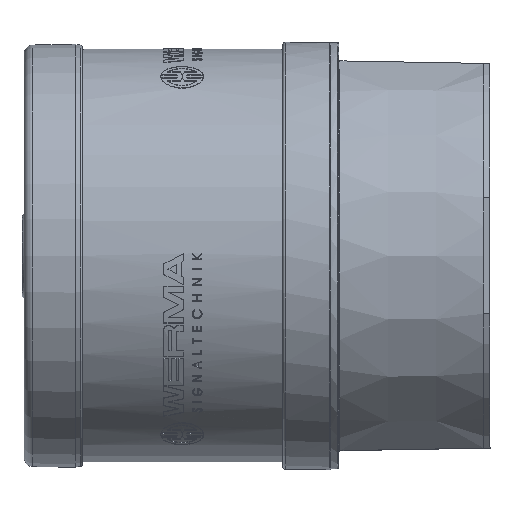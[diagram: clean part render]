
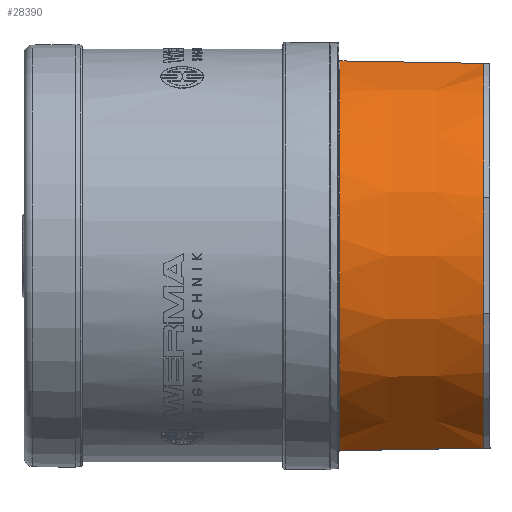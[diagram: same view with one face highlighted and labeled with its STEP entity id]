
A CAD part, left-side view. The second image highlights one B-rep face of the part: STEP entity #28390.
In plain terms, the highlighted conical face has half-angle 1 degrees and reference radius 47.295 mm.
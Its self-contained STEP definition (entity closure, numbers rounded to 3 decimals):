
#33=(
BOUNDED_CURVE()
B_SPLINE_CURVE(2,(#94732,#94733,#94734),.UNSPECIFIED.,.F.,.F.)
B_SPLINE_CURVE_WITH_KNOTS((3,3),(0.029,0.029),
 .UNSPECIFIED.)
CURVE()
GEOMETRIC_REPRESENTATION_ITEM()
RATIONAL_B_SPLINE_CURVE((1.,1.,1.))
REPRESENTATION_ITEM('')
);
#34=(
BOUNDED_CURVE()
B_SPLINE_CURVE(2,(#94735,#94736,#94737),.UNSPECIFIED.,.F.,.F.)
B_SPLINE_CURVE_WITH_KNOTS((3,3),(0.029,3.387),
 .UNSPECIFIED.)
CURVE()
GEOMETRIC_REPRESENTATION_ITEM()
RATIONAL_B_SPLINE_CURVE((1.,1.,1.))
REPRESENTATION_ITEM('')
);
#35=(
BOUNDED_CURVE()
B_SPLINE_CURVE(2,(#94739,#94740,#94741),.UNSPECIFIED.,.F.,.F.)
B_SPLINE_CURVE_WITH_KNOTS((3,3),(0.,3.358),.UNSPECIFIED.)
CURVE()
GEOMETRIC_REPRESENTATION_ITEM()
RATIONAL_B_SPLINE_CURVE((1.,1.,1.))
REPRESENTATION_ITEM('')
);
#36=(
BOUNDED_CURVE()
B_SPLINE_CURVE(2,(#94742,#94743,#94744),.UNSPECIFIED.,.F.,.F.)
B_SPLINE_CURVE_WITH_KNOTS((3,3),(3.358,3.358),
 .UNSPECIFIED.)
CURVE()
GEOMETRIC_REPRESENTATION_ITEM()
RATIONAL_B_SPLINE_CURVE((1.,1.,1.))
REPRESENTATION_ITEM('')
);
#168=CONICAL_SURFACE('',#30166,47.296,0.017);
#5845=CIRCLE('',#29981,47.);
#5848=CIRCLE('',#29985,47.);
#5867=CIRCLE('',#30039,47.);
#5935=CIRCLE('',#30167,47.586);
#8054=FACE_OUTER_BOUND('',#9766,.T.);
#9766=EDGE_LOOP('',(#23495,#23496,#23497,#23498,#23499,#23500,#23501,#23502));
#13373=VERTEX_POINT('',#93932);
#13378=VERTEX_POINT('',#93942);
#13391=VERTEX_POINT('',#93976);
#13393=VERTEX_POINT('',#93980);
#13551=VERTEX_POINT('',#94728);
#13552=VERTEX_POINT('',#94729);
#13553=VERTEX_POINT('',#94731);
#13554=VERTEX_POINT('',#94738);
#16812=EDGE_CURVE('',#13393,#13378,#5845,.T.);
#16815=EDGE_CURVE('',#13373,#13391,#5848,.T.);
#16882=EDGE_CURVE('',#13391,#13393,#5867,.T.);
#17052=EDGE_CURVE('',#13551,#13552,#5935,.T.);
#17053=EDGE_CURVE('',#13551,#13553,#33,.T.);
#17054=EDGE_CURVE('',#13553,#13373,#34,.T.);
#17055=EDGE_CURVE('',#13378,#13554,#35,.T.);
#17056=EDGE_CURVE('',#13554,#13552,#36,.T.);
#23495=ORIENTED_EDGE('',*,*,#17052,.F.);
#23496=ORIENTED_EDGE('',*,*,#17053,.T.);
#23497=ORIENTED_EDGE('',*,*,#17054,.T.);
#23498=ORIENTED_EDGE('',*,*,#16815,.T.);
#23499=ORIENTED_EDGE('',*,*,#16882,.T.);
#23500=ORIENTED_EDGE('',*,*,#16812,.T.);
#23501=ORIENTED_EDGE('',*,*,#17055,.T.);
#23502=ORIENTED_EDGE('',*,*,#17056,.T.);
#28390=ADVANCED_FACE('',(#8054),#168,.T.);
#29981=AXIS2_PLACEMENT_3D('',#93987,#33767,#33768);
#29985=AXIS2_PLACEMENT_3D('',#93991,#33775,#33776);
#30039=AXIS2_PLACEMENT_3D('',#94125,#33931,#33932);
#30166=AXIS2_PLACEMENT_3D('',#94727,#34262,#34263);
#30167=AXIS2_PLACEMENT_3D('',#94730,#34264,#34265);
#33767=DIRECTION('center_axis',(0.,1.,0.));
#33768=DIRECTION('ref_axis',(-1.,0.,0.001));
#33775=DIRECTION('center_axis',(0.,1.,0.));
#33776=DIRECTION('ref_axis',(-1.,0.,0.001));
#33931=DIRECTION('center_axis',(0.,1.,0.));
#33932=DIRECTION('ref_axis',(-1.,0.,0.001));
#34262=DIRECTION('center_axis',(0.,1.,0.));
#34263=DIRECTION('ref_axis',(-1.,0.,0.001));
#34264=DIRECTION('center_axis',(0.,1.,0.));
#34265=DIRECTION('ref_axis',(-1.,0.,0.001));
#93932=CARTESIAN_POINT('',(-13.675,0.1,-44.967));
#93942=CARTESIAN_POINT('',(-13.625,0.1,44.982));
#93976=CARTESIAN_POINT('',(-45.008,0.1,-13.54));
#93980=CARTESIAN_POINT('',(-44.992,0.1,13.59));
#93987=CARTESIAN_POINT('Origin',(0.,0.1,
0.));
#93991=CARTESIAN_POINT('Origin',(0.,0.1,
0.));
#94125=CARTESIAN_POINT('Origin',(0.,0.1,
0.));
#94727=CARTESIAN_POINT('Origin',(0.,17.03,
0.));
#94728=CARTESIAN_POINT('',(-13.762,33.671,-45.553));
#94729=CARTESIAN_POINT('',(-13.711,33.671,45.568));
#94730=CARTESIAN_POINT('Origin',(0.,33.671,
0.));
#94731=CARTESIAN_POINT('',(-13.762,33.67,-45.553));
#94732=CARTESIAN_POINT('Ctrl Pts',(-13.762,33.671,-45.553));
#94733=CARTESIAN_POINT('Ctrl Pts',(-13.762,33.671,-45.553));
#94734=CARTESIAN_POINT('Ctrl Pts',(-13.762,33.67,-45.553));
#94735=CARTESIAN_POINT('Ctrl Pts',(-13.762,33.67,-45.553));
#94736=CARTESIAN_POINT('Ctrl Pts',(-13.718,16.832,-45.259));
#94737=CARTESIAN_POINT('Ctrl Pts',(-13.675,0.1,
-44.967));
#94738=CARTESIAN_POINT('',(-13.711,33.67,45.568));
#94739=CARTESIAN_POINT('Ctrl Pts',(-13.625,0.1,
44.982));
#94740=CARTESIAN_POINT('Ctrl Pts',(-13.668,16.832,45.274));
#94741=CARTESIAN_POINT('Ctrl Pts',(-13.711,33.67,45.568));
#94742=CARTESIAN_POINT('Ctrl Pts',(-13.711,33.67,45.568));
#94743=CARTESIAN_POINT('Ctrl Pts',(-13.711,33.671,45.568));
#94744=CARTESIAN_POINT('Ctrl Pts',(-13.711,33.671,45.568));
